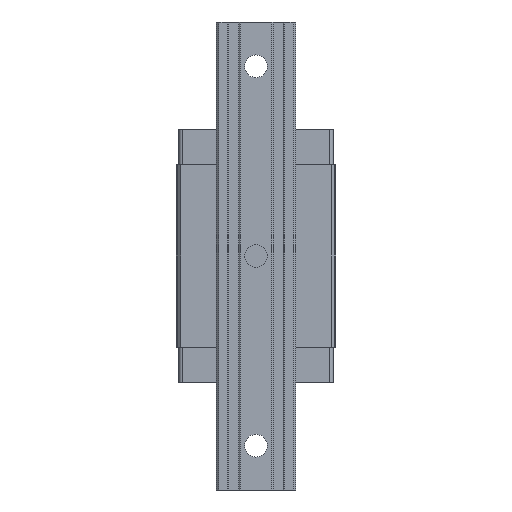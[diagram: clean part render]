
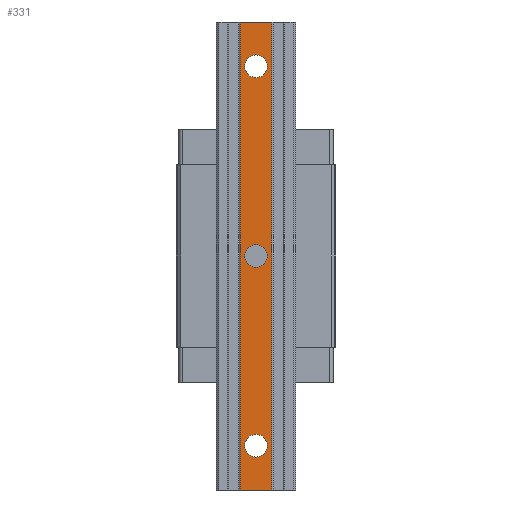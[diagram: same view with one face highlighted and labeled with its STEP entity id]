
A CAD part, front view. The second image highlights one B-rep face of the part: STEP entity #331.
In plain terms, the highlighted planar face has unit normal (0, -1, 0).
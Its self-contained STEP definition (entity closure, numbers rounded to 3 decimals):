
#269=FACE_BOUND('',#790,.T.);
#270=FACE_BOUND('',#791,.T.);
#271=FACE_BOUND('',#792,.T.);
#272=FACE_BOUND('',#793,.T.);
#331=ADVANCED_FACE('',(#269,#270,#271,#272),#504,.T.);
#504=PLANE('',#3514);
#790=EDGE_LOOP('',(#1161,#1162,#1163,#1164));
#791=EDGE_LOOP('',(#1165));
#792=EDGE_LOOP('',(#1166));
#793=EDGE_LOOP('',(#1167));
#990=CIRCLE('',#3511,9.);
#991=CIRCLE('',#3512,9.);
#992=CIRCLE('',#3513,9.);
#1161=ORIENTED_EDGE('',*,*,#2407,.T.);
#1162=ORIENTED_EDGE('',*,*,#2408,.F.);
#1163=ORIENTED_EDGE('',*,*,#2409,.F.);
#1164=ORIENTED_EDGE('',*,*,#2346,.T.);
#1165=ORIENTED_EDGE('',*,*,#2410,.T.);
#1166=ORIENTED_EDGE('',*,*,#2411,.T.);
#1167=ORIENTED_EDGE('',*,*,#2412,.T.);
#2020=VERTEX_POINT('',#4537);
#2021=VERTEX_POINT('',#4539);
#2062=VERTEX_POINT('',#4659);
#2063=VERTEX_POINT('',#4663);
#2064=VERTEX_POINT('',#4666);
#2065=VERTEX_POINT('',#4668);
#2066=VERTEX_POINT('',#4670);
#2346=EDGE_CURVE('',#2021,#2020,#2820,.T.);
#2407=EDGE_CURVE('',#2020,#2062,#2868,.T.);
#2408=EDGE_CURVE('',#2063,#2062,#2869,.T.);
#2409=EDGE_CURVE('',#2021,#2063,#2870,.T.);
#2410=EDGE_CURVE('',#2064,#2064,#990,.T.);
#2411=EDGE_CURVE('',#2065,#2065,#991,.T.);
#2412=EDGE_CURVE('',#2066,#2066,#992,.T.);
#2820=LINE('',#4538,#3141);
#2868=LINE('',#4660,#3189);
#2869=LINE('',#4662,#3190);
#2870=LINE('',#4664,#3191);
#3141=VECTOR('',#3725,1.);
#3189=VECTOR('',#3837,1.);
#3190=VECTOR('',#3840,1.);
#3191=VECTOR('',#3841,1.);
#3511=AXIS2_PLACEMENT_3D('',#4665,#3842,#3843);
#3512=AXIS2_PLACEMENT_3D('',#4667,#3844,#3845);
#3513=AXIS2_PLACEMENT_3D('',#4669,#3846,#3847);
#3514=AXIS2_PLACEMENT_3D('',#4671,#3848,#3849);
#3725=DIRECTION('',(1.,0.,0.));
#3837=DIRECTION('',(0.,0.,1.));
#3840=DIRECTION('',(1.,0.,0.));
#3841=DIRECTION('',(0.,0.,1.));
#3842=DIRECTION('',(0.,1.,0.));
#3843=DIRECTION('',(-1.,0.,0.));
#3844=DIRECTION('',(0.,1.,0.));
#3845=DIRECTION('',(-1.,0.,0.));
#3846=DIRECTION('',(0.,1.,0.));
#3847=DIRECTION('',(-1.,0.,0.));
#3848=DIRECTION('',(0.,-1.,0.));
#3849=DIRECTION('',(1.,0.,0.));
#4537=CARTESIAN_POINT('',(12.5,-53.,-185.));
#4538=CARTESIAN_POINT('',(-12.5,-53.,-185.));
#4539=CARTESIAN_POINT('',(-12.5,-53.,-185.));
#4659=CARTESIAN_POINT('',(12.5,-53.,185.));
#4660=CARTESIAN_POINT('',(12.5,-53.,-185.));
#4662=CARTESIAN_POINT('',(-12.5,-53.,185.));
#4663=CARTESIAN_POINT('',(-12.5,-53.,185.));
#4664=CARTESIAN_POINT('',(-12.5,-53.,-185.));
#4665=CARTESIAN_POINT('',(0.,-53.,0.));
#4666=CARTESIAN_POINT('',(-9.,-53.,0.));
#4667=CARTESIAN_POINT('',(0.,-53.,150.));
#4668=CARTESIAN_POINT('',(-9.,-53.,150.));
#4669=CARTESIAN_POINT('',(0.,-53.,-150.));
#4670=CARTESIAN_POINT('',(-9.,-53.,-150.));
#4671=CARTESIAN_POINT('',(-12.5,-53.,-185.));
